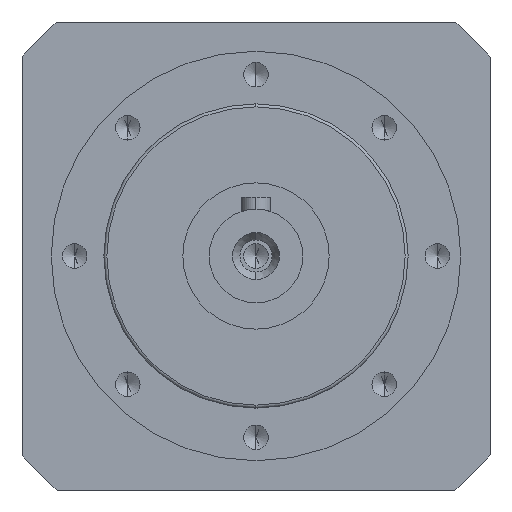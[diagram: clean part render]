
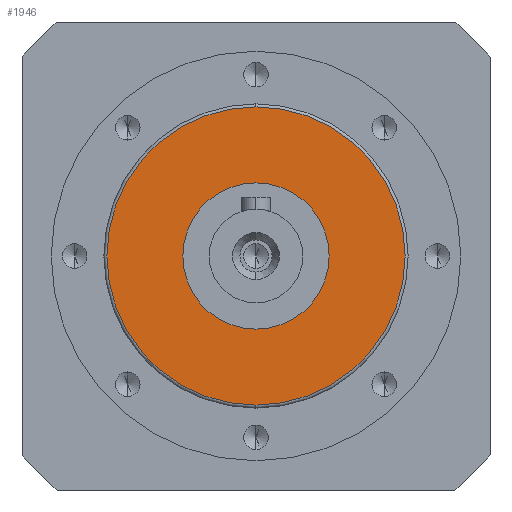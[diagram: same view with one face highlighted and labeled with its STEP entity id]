
A CAD part, left-side view. The second image highlights one B-rep face of the part: STEP entity #1946.
In plain terms, the highlighted planar face has unit normal (-1, 0, 0) as drawn and (0, 1, 0) by its records, which use the part's own axes.
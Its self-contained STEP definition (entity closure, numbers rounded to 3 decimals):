
#1706 = EDGE_LOOP ( 'NONE', ( #1979, #1876 ) ) ;
#1833 = EDGE_LOOP ( 'NONE', ( #1850, #1852 ) ) ;
#1850 = ORIENTED_EDGE ( 'NONE', *, *, #3453, .F. ) ;
#1852 = ORIENTED_EDGE ( 'NONE', *, *, #2171, .F. ) ;
#1876 = ORIENTED_EDGE ( 'NONE', *, *, #2175, .T. ) ;
#1881 = VERTEX_POINT ( 'NONE', #13519 ) ;
#1891 = VERTEX_POINT ( 'NONE', #13638 ) ;
#1914 = EDGE_CURVE ( 'NONE', #1881, #1891, #13864, .T. ) ;
#1946 = ADVANCED_FACE ( 'NONE', ( #13592, #13590 ), #13871, .T. ) ;
#1979 = ORIENTED_EDGE ( 'NONE', *, *, #1914, .T. ) ;
#2171 = EDGE_CURVE ( 'NONE', #3436, #3444, #14225, .T. ) ;
#2175 = EDGE_CURVE ( 'NONE', #1891, #1881, #14276, .T. ) ;
#3436 = VERTEX_POINT ( 'NONE', #4327 ) ;
#3444 = VERTEX_POINT ( 'NONE', #4430 ) ;
#3453 = EDGE_CURVE ( 'NONE', #3444, #3436, #4426, .T. ) ;
#4327 = CARTESIAN_POINT ( 'NONE',  ( 0., 44., -12.5 ) ) ;
#4410 = DIRECTION ( 'NONE',  ( 0., 0., 1. ) ) ;
#4411 = DIRECTION ( 'NONE',  ( 0., 1., 0. ) ) ;
#4412 = CARTESIAN_POINT ( 'NONE',  ( 0., 44., 0. ) ) ;
#4426 = CIRCLE ( 'NONE', #4431, 12.5 ) ;
#4430 = CARTESIAN_POINT ( 'NONE',  ( 0., 44., 12.5 ) ) ;
#4431 = AXIS2_PLACEMENT_3D ( 'NONE', #4412, #4411, #4410 ) ;
#13519 = CARTESIAN_POINT ( 'NONE',  ( 0., 44., 25.5 ) ) ;
#13590 = FACE_BOUND ( 'NONE', #1833, .T. ) ;
#13592 = FACE_OUTER_BOUND ( 'NONE', #1706, .T. ) ;
#13638 = CARTESIAN_POINT ( 'NONE',  ( 0., 44., -25.5 ) ) ;
#13671 = DIRECTION ( 'NONE',  ( 0., 0., 1. ) ) ;
#13672 = DIRECTION ( 'NONE',  ( 0., 1., 0. ) ) ;
#13858 = DIRECTION ( 'NONE',  ( 0., 0., 1. ) ) ;
#13859 = DIRECTION ( 'NONE',  ( 0., 1., 0. ) ) ;
#13860 = CARTESIAN_POINT ( 'NONE',  ( 0., 44., 0. ) ) ;
#13862 = AXIS2_PLACEMENT_3D ( 'NONE', #13860, #13859, #13858 ) ;
#13864 = CIRCLE ( 'NONE', #13862, 25.5 ) ;
#13870 = CARTESIAN_POINT ( 'NONE',  ( 0., 44., 0. ) ) ;
#13871 = PLANE ( 'NONE',  #13873 ) ;
#13873 = AXIS2_PLACEMENT_3D ( 'NONE', #13870, #13672, #13671 ) ;
#14123 = DIRECTION ( 'NONE',  ( 0., 0., 1. ) ) ;
#14124 = DIRECTION ( 'NONE',  ( 0., 1., 0. ) ) ;
#14147 = DIRECTION ( 'NONE',  ( 0., 1., 0. ) ) ;
#14189 = CARTESIAN_POINT ( 'NONE',  ( 0., 44., 0. ) ) ;
#14225 = CIRCLE ( 'NONE', #14278, 12.5 ) ;
#14261 = AXIS2_PLACEMENT_3D ( 'NONE', #14274, #14124, #14123 ) ;
#14274 = CARTESIAN_POINT ( 'NONE',  ( 0., 44., 0. ) ) ;
#14275 = DIRECTION ( 'NONE',  ( 0., 0., 1. ) ) ;
#14276 = CIRCLE ( 'NONE', #14261, 25.5 ) ;
#14278 = AXIS2_PLACEMENT_3D ( 'NONE', #14189, #14147, #14275 ) ;
